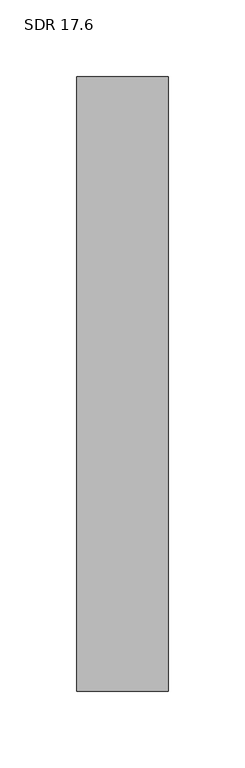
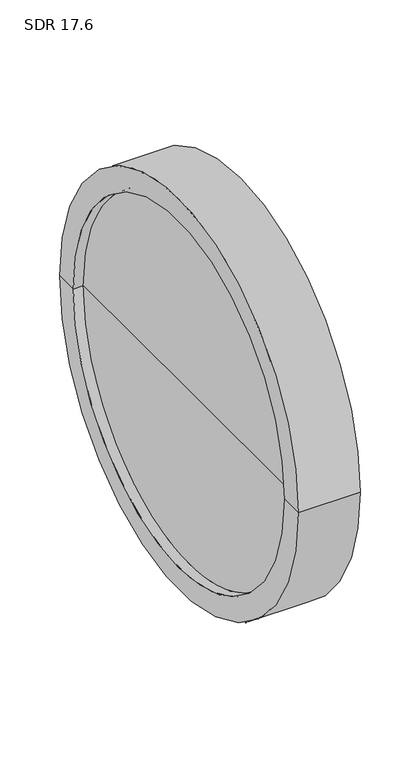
"""IFC4 building model written with IfcOpenShell, lengths in millimetres: pipe fitting geometry, Aquatherm - End Cap Butt-Weld : SDR 17.6."""

import ifcopenshell
import ifcopenshell.guid

model = None  # the IFC model being written
_history = None  # IfcOwnerHistory: only IFC2X3 demands one
_inside = {}  # id of a spatial element -> (the spatial element, [elements in it])
_under = {}  # id of a project, library or spatial element -> (it, [spatial elements below it])
_declared = {}  # id of a project -> (the project, [libraries it declares])
_typed = {}  # id of a type object -> (the type object, [elements of that type])
_made_of = {}  # id of a material, layer set ... -> (it, [elements and type objects made of it])


def new_model(schema):
    """Start an empty IFC model of exactly this schema.

    Asked for "IFC4X3", IfcOpenShell would pick the latest addendum, in which some entities
    have other attributes; the version numbers below select the first issue.
    IFC2X3 requires an IfcOwnerHistory on every rooted entity: one is made here for all.
    """
    global model, _history
    if schema == "IFC4X3":
        model = ifcopenshell.file(schema_version=(4, 3, 0, 0))
    else:
        model = ifcopenshell.file(schema=schema)
    _inside.clear()
    _under.clear()
    _declared.clear()
    _typed.clear()
    _made_of.clear()
    _history = None
    if model.schema == "IFC2X3":
        org = make("IfcOrganization", Name="unknown")
        user = make(
            "IfcPersonAndOrganization",
            ThePerson=make("IfcPerson", FamilyName="unknown"),
            TheOrganization=org,
        )
        app = make(
            "IfcApplication",
            ApplicationDeveloper=org,
            Version="unknown",
            ApplicationFullName="unknown",
            ApplicationIdentifier="unknown",
        )
        _history = make(
            "IfcOwnerHistory",
            OwningUser=user,
            OwningApplication=app,
            ChangeAction="ADDED",
            CreationDate=0,
        )
    return model


def make(cls, **values):
    """One entity of the class cls with the attributes given. An attribute that is None is left unset."""
    return model.create_entity(
        cls, **{name: value for name, value in values.items() if value is not None}
    )


def rooted(cls, **values):
    """An entity with a GlobalId (a new one), such as an element, a storey or a relation."""
    return make(cls, GlobalId=ifcopenshell.guid.new(), OwnerHistory=_history, **values)


def si_unit(unit_type, name, prefix=None):
    """IfcSIUnit, for example si_unit("LENGTHUNIT", "METRE", prefix="MILLI")."""
    return make("IfcSIUnit", UnitType=unit_type, Prefix=prefix, Name=name)


def assignment(units):
    """IfcUnitAssignment: the units of a project."""
    return None if units is None else make("IfcUnitAssignment", Units=units)


def point(xyz):
    """IfcCartesianPoint."""
    return None if xyz is None else make("IfcCartesianPoint", Coordinates=xyz)


def direction(xyz):
    """IfcDirection."""
    return None if xyz is None else make("IfcDirection", DirectionRatios=xyz)


def frame(location, z_axis=None, x_axis=None):
    """IfcAxis2Placement3D, a coordinate frame: its origin and axes. An axis left out is left unset."""
    return make(
        "IfcAxis2Placement3D",
        Location=point(location),
        Axis=direction(z_axis),
        RefDirection=direction(x_axis),
    )


def origin():
    """The frame at (0, 0, 0) with its axes left unset."""
    return frame((0.0, 0.0, 0.0))


def place(relative_to, where):
    """IfcLocalPlacement: puts the frame where relative to a parent placement (None: the world)."""
    return make(
        "IfcLocalPlacement", PlacementRelTo=relative_to, RelativePlacement=where
    )


def context(
    kind, dimensions, precision=None, world=None, true_north=None, identifier=None
):
    """IfcGeometricRepresentationContext, for example the 3D "Model" context."""
    return make(
        "IfcGeometricRepresentationContext",
        ContextIdentifier=identifier,
        ContextType=kind,
        CoordinateSpaceDimension=dimensions,
        Precision=precision,
        WorldCoordinateSystem=world,
        TrueNorth=true_north,
    )


def project(units=None, contexts=None):
    """IfcProject with its units and contexts."""
    return rooted(
        "IfcProject",
        Name="project",
        RepresentationContexts=contexts,
        UnitsInContext=assignment(units),
    )


def spatial(cls, under=None, at=None, **own):
    """A site, building, storey or space (cls), placed at a placement, below another one or the project."""
    s = rooted(cls, ObjectPlacement=at, **own)
    if under is not None:
        _under.setdefault(under.id(), (under, []))[1].append(s)
    return s


def polyline(points):
    """IfcPolyline through the points."""
    return make("IfcPolyline", Points=[point(p) for p in points])


def circle_curve(where, radius):
    """IfcCircle in the frame where."""
    return make("IfcCircle", Position=where, Radius=radius)


def shape(context_of_items, identifier, shape_type, items):
    """IfcShapeRepresentation: the items that make up one representation, for example the "Body"."""
    return make(
        "IfcShapeRepresentation",
        ContextOfItems=context_of_items,
        RepresentationIdentifier=identifier,
        RepresentationType=shape_type,
        Items=items,
    )


def source(mapping_origin, context_of_items, identifier, shape_type, items):
    """IfcRepresentationMap: a shape defined once, which mapped items show again and again."""
    return make(
        "IfcRepresentationMap",
        MappingOrigin=mapping_origin,
        MappedRepresentation=shape(context_of_items, identifier, shape_type, items),
    )


def transform(
    local_origin,
    x_axis=None,
    y_axis=None,
    z_axis=None,
    scale=None,
    scale2=None,
    scale3=None,
    uniform=True,
):
    """IfcCartesianTransformationOperator3D, or its non-uniform kind. x_axis, y_axis, z_axis: its Axis1, 2, 3."""
    if uniform:
        return make(
            "IfcCartesianTransformationOperator3D",
            Axis1=direction(x_axis),
            Axis2=direction(y_axis),
            LocalOrigin=point(local_origin),
            Scale=scale,
            Axis3=direction(z_axis),
        )
    return make(
        "IfcCartesianTransformationOperator3DnonUniform",
        Axis1=direction(x_axis),
        Axis2=direction(y_axis),
        LocalOrigin=point(local_origin),
        Scale=scale,
        Axis3=direction(z_axis),
        Scale2=scale2,
        Scale3=scale3,
    )


def mapped(mapping_source, mapping_target):
    """IfcMappedItem: shows the shape of a source again, moved by a transform."""
    return make(
        "IfcMappedItem", MappingSource=mapping_source, MappingTarget=mapping_target
    )


def made_of(thing, what):
    """Note that an element or type object is made of a material, layer set ...; save() writes the relation."""
    if what is not None:
        _made_of.setdefault(what.id(), (what, []))[1].append(thing)
    return thing


def element(
    cls,
    number,
    at=None,
    inside=None,
    cuts=None,
    type_object=None,
    material=None,
    context=None,
    identifier="Body",
    shape_type=None,
    held_by="IfcProductDefinitionShape",
    body=None,
    shapes=None,
    **own,
):
    """One element of the class cls, such as IfcWall. Its Tag is "e" and its number.

    at: its placement. inside: the storey or other place that contains it. cuts: it is an
    opening in that element (IfcRelVoidsElement). A single representation is given by context,
    identifier, shape_type and body (its items); several are given by shapes. held_by: the class
    of the entity that holds the representations. save() writes the other relations.
    """
    e = rooted(cls, Tag="e%d" % number, ObjectPlacement=at, **own)
    if body is not None:
        shapes = [shape(context, identifier, shape_type, body)]
    if shapes is not None:
        e.Representation = make(held_by, Representations=shapes)
    if inside is not None:
        _inside.setdefault(inside.id(), (inside, []))[1].append(e)
    if cuts is not None:
        rooted(
            "IfcRelVoidsElement", RelatingBuildingElement=cuts, RelatedOpeningElement=e
        )
    if type_object is not None:
        _typed.setdefault(type_object.id(), (type_object, []))[1].append(e)
    return made_of(e, material)


def aggregate(whole, parts):
    """IfcRelAggregates: a whole, such as a stair, and the parts it consists of."""
    return rooted("IfcRelAggregates", RelatingObject=whole, RelatedObjects=parts)


def save(model, path):
    """Write the relations noted so far, then the file.

    IfcRelAggregates (storeys below a building ...), IfcRelContainedInSpatialStructure (elements
    in a storey), IfcRelDefinesByType, IfcRelAssociatesMaterial and IfcRelDeclares: one each for
    every whole, place, type object, material and project.
    """
    for whole, parts in _under.values():
        aggregate(whole, parts)
    for where, things in _inside.values():
        rooted(
            "IfcRelContainedInSpatialStructure",
            RelatedElements=things,
            RelatingStructure=where,
        )
    for kind, things in _typed.values():
        rooted("IfcRelDefinesByType", RelatedObjects=things, RelatingType=kind)
    for what, things in _made_of.values():
        rooted("IfcRelAssociatesMaterial", RelatedObjects=things, RelatingMaterial=what)
    for by, libraries in _declared.values():
        rooted("IfcRelDeclares", RelatingContext=by, RelatedDefinitions=libraries)
    model.write(path)


def plane_surface(at):
    """IfcPlane: the flat surface through the origin of the frame at, square to its z axis."""
    return make("IfcPlane", Position=at)


def cylinder_surface(at, radius):
    """IfcCylindricalSurface: all points at the distance radius from the z axis of the frame at."""
    return make("IfcCylindricalSurface", Position=at, Radius=radius)


def revolved_surface(curve, axis_point, axis_direction):
    """IfcSurfaceOfRevolution: the curve turned about the line through axis_point along axis_direction."""
    return make(
        "IfcSurfaceOfRevolution",
        SweptCurve=make("IfcArbitraryOpenProfileDef", ProfileType="CURVE", Curve=curve),
        AxisPosition=make("IfcAxis1Placement", Location=point(axis_point), Axis=direction(axis_direction)),
    )


def advanced_brep(points, edges, surfaces, faces):
    """IfcAdvancedBrep: a solid bounded by faces that lie on surfaces and meet in shared edges.

    An edge is (start, end): straight between two places in points (the first is 0);
    or (start, end, curve); or (start, end, curve, False) where it runs against its curve.
    A face is (place in surfaces, loops), or (place, loops, False) where it looks against
    its surface's normal. A loop lists edges by number (the first is 1), with a minus sign
    where the edge is run from its end to its start. The first loop is the outer one.
    """
    corners = [point(p) for p in points]
    vertices = [make("IfcVertexPoint", VertexGeometry=c) for c in corners]
    made = []
    for start, end, *more in edges:
        made.append(
            make(
                "IfcEdgeCurve",
                EdgeStart=vertices[start],
                EdgeEnd=vertices[end],
                EdgeGeometry=more[0] if more else make("IfcPolyline", Points=[corners[start], corners[end]]),
                SameSense=more[1] if len(more) > 1 else True,
            )
        )
    hull = []
    for where, loops, *sense in faces:
        bounds = []
        for j, loop in enumerate(loops):
            ring = [make("IfcOrientedEdge", EdgeElement=made[abs(k) - 1], Orientation=k > 0) for k in loop]
            bounds.append(
                make(
                    "IfcFaceOuterBound" if j == 0 else "IfcFaceBound",
                    Bound=make("IfcEdgeLoop", EdgeList=ring),
                    Orientation=True,
                )
            )
        hull.append(make("IfcAdvancedFace", Bounds=bounds, FaceSurface=surfaces[where], SameSense=sense[0] if sense else True))
    return make("IfcAdvancedBrep", Outer=make("IfcClosedShell", CfsFaces=hull))


def sdr_17_6_b92cc6ed(model_context):
    return source(origin(), model_context, "Body", "AdvancedBrep", [
        advanced_brep(
        [(59.944, -200.66, 0.0), (59.944, 200.66, 0.0), (59.944, 0.0, 0.0), (9.906, 0.0, 0.0), (9.906, 177.8, 0.0), (9.906, -177.8, 0.0), (0.0, 177.8, 0.0), (0.0, -177.8, 0.0), (0.0, 200.66, 0.0), (0.0, -200.66, 0.0)],
        [
            (0, 1, circle_curve(frame((59.944, 0.0, 0.0), z_axis=(1.0, 0.0, 0.0), x_axis=(0.0, 1.0, 0.0)), 200.66)),
            (1, 2),
            (2, 0),
            (1, 0, circle_curve(frame((59.944, 0.0, 0.0), z_axis=(1.0, 0.0, 0.0), x_axis=(0.0, 1.0, 0.0)), 200.66)),
            (3, 4),
            (4, 5, circle_curve(frame((9.906, 0.0, 0.0), z_axis=(-1.0, 0.0, 0.0), x_axis=(0.0, 1.0, 0.0)), 177.8)),
            (5, 3),
            (5, 4, circle_curve(frame((9.906, 0.0, 0.0), z_axis=(-1.0, 0.0, 0.0), x_axis=(0.0, 1.0, 0.0)), 177.8)),
            (4, 6),
            (6, 7, circle_curve(frame((0.0, 0.0, 0.0), z_axis=(-1.0, 0.0, 0.0), x_axis=(0.0, 1.0, 0.0)), 177.8)),
            (7, 5),
            (7, 6, circle_curve(frame((0.0, 0.0, 0.0), z_axis=(-1.0, 0.0, 0.0), x_axis=(0.0, 1.0, 0.0)), 177.8)),
            (6, 8),
            (8, 9, circle_curve(frame((0.0, 0.0, 0.0), z_axis=(-1.0, 0.0, 0.0), x_axis=(0.0, 1.0, 0.0)), 200.66)),
            (9, 7),
            (9, 8, circle_curve(frame((0.0, 0.0, 0.0), z_axis=(-1.0, 0.0, 0.0), x_axis=(0.0, 1.0, 0.0)), 200.66)),
            (8, 1),
            (0, 9),
        ],
        [
            plane_surface(frame((59.944, 0.0, 0.0), z_axis=(1.0, 0.0, 0.0), x_axis=(0.0, 1.0, 0.0))),
            plane_surface(frame((9.906, 0.0, 0.0), z_axis=(-1.0, 0.0, 0.0), x_axis=(0.0, 1.0, 0.0))),
            revolved_surface(polyline([(0.0, 177.8, 0.0), (9.905999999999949, 177.8, 0.0)]), (-1384.046, 0.0, 0.0), (-1.0, 0.0, 0.0)),
            plane_surface(frame((0.0, 0.0, 0.0), z_axis=(-1.0, 0.0, 0.0), x_axis=(0.0, 1.0, 0.0))),
            cylinder_surface(frame((-1384.046, 0.0, 0.0), z_axis=(-1.0, 0.0, 0.0), x_axis=(0.0, 1.0, 0.0)), 200.66),
        ],
        [
            (0, [[1, 2, 3]]),
            (0, [[4, -3, -2]]),
            (1, [[5, 6, 7]]),
            (1, [[-7, 8, -5]]),
            (2, [[-6, 9, 10, 11]]),
            (2, [[-8, -11, 12, -9]]),
            (3, [[-10, 13, 14, 15]]),
            (3, [[-12, -15, 16, -13]]),
            (4, [[-14, 17, -1, 18]]),
            (4, [[-16, -18, -4, -17]]),
        ],
    ),
    ])


if __name__ == "__main__":
    model = new_model("IFC4")
    model_context = context("Model", 3, world=origin())
    ifc_project = project(units=[si_unit("LENGTHUNIT", "METRE", prefix="MILLI")], contexts=[model_context])
    site = spatial("IfcSite", under=ifc_project)
    building = spatial("IfcBuilding", under=site)
    placement = place(None, origin())
    sdr_17_6_shape = sdr_17_6_b92cc6ed(model_context)
    element("IfcPipeFitting", 1, ObjectType="Aquatherm - End Cap Butt-Weld : SDR 17.6", at=placement, inside=building, context=model_context, shape_type="MappedRepresentation", body=[
        mapped(sdr_17_6_shape, transform((0.0, 0.0, 0.0), x_axis=(1.0, 0.0, 0.0), y_axis=(0.0, 1.0, 0.0), z_axis=(0.0, 0.0, 1.0))),
    ])
    save(model, "model.ifc")
